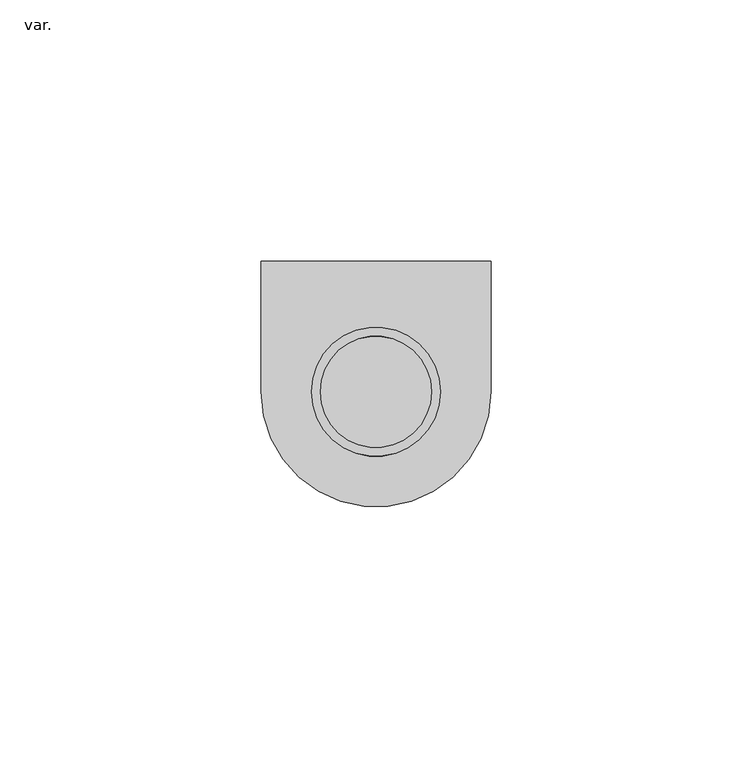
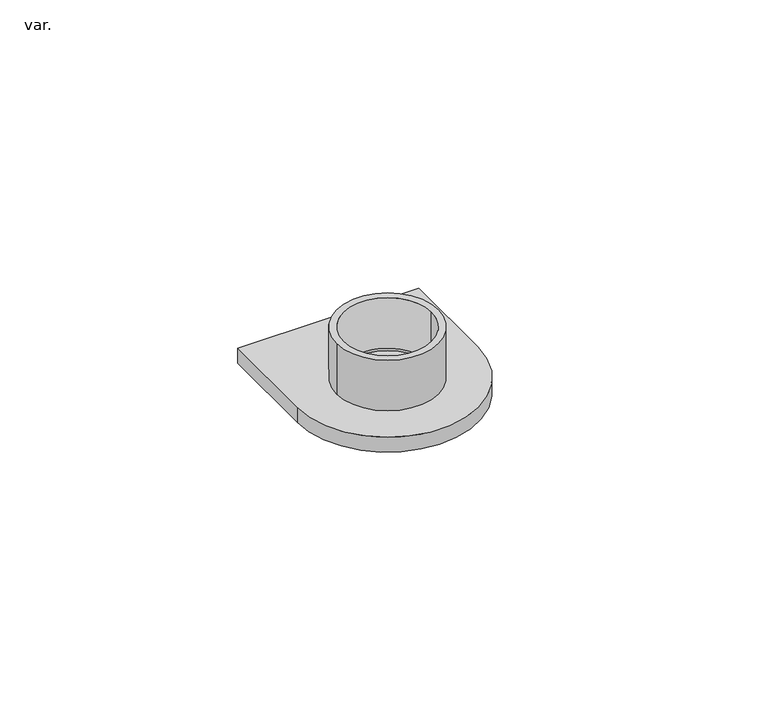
"""IFC4 building model written with IfcOpenShell, lengths in millimetres: pipe fitting geometry, AmancoWavin_ConexõesdoConduite_LinhaEletricaeZNãoUsarElectroAmancoAdaptador : var.."""

from ifc_helpers import new_model, si_unit, frame, origin, origin_with_axes, place, context, project, spatial, polyline, circle_curve, source, transform, mapped, element, save
from ifc_brep_helpers import plane_surface, cylinder_surface, revolved_surface, advanced_brep


def var_af95b0c3(model_context):
    return source(origin(), model_context, "Body", "AdvancedBrep", [
        advanced_brep(
        [(-22.0, 0.0, 3.85), (22.0, 0.0, 3.85), (22.0, 25.0, 3.85), (-22.0, 25.0, 3.85), (12.35, 0.0, 3.85), (-12.35, 0.0, 3.85), (-22.0, 0.0, 0.0), (-22.0, 25.0, 0.0), (22.0, 25.0, 0.0), (22.0, 0.0, 0.0), (-12.35, 0.0, 16.85), (12.35, 0.0, 16.85), (-10.65, 0.0, 16.85), (10.65, 0.0, 16.85), (10.65, 0.0, 3.85), (-10.65, 0.0, 3.85), (-10.65, 0.0, 3.25), (10.65, 0.0, 3.25)],
        [
            (0, 1, circle_curve(frame((0.0, 0.0, 3.85), z_axis=(0.0, 0.0, 1.0), x_axis=(1.0, 0.0, 0.0)), 22.0)),
            (1, 2),
            (2, 3),
            (3, 0),
            (4, 5, circle_curve(frame((0.0, 0.0, 3.85), z_axis=(0.0, 0.0, -1.0), x_axis=(1.0, 0.0, 0.0)), 12.35)),
            (5, 4, circle_curve(frame((0.0, 0.0, 3.85), z_axis=(0.0, 0.0, -1.0), x_axis=(1.0, 0.0, 0.0)), 12.35)),
            (6, 7),
            (7, 8),
            (8, 9),
            (9, 6, circle_curve(frame((0.0, 0.0, 0.0), z_axis=(0.0, 0.0, -1.0), x_axis=(1.0, 0.0, 0.0)), 22.0)),
            (3, 7),
            (6, 0),
            (2, 8),
            (1, 9),
            (10, 11, circle_curve(frame((0.0, 0.0, 16.85), z_axis=(0.0, 0.0, 1.0), x_axis=(1.0, 0.0, 0.0)), 12.35)),
            (11, 10, circle_curve(frame((0.0, 0.0, 16.85), z_axis=(0.0, 0.0, 1.0), x_axis=(1.0, 0.0, 0.0)), 12.35)),
            (12, 13, circle_curve(frame((0.0, 0.0, 16.85), z_axis=(0.0, 0.0, -1.0), x_axis=(1.0, 0.0, 0.0)), 10.65)),
            (13, 12, circle_curve(frame((0.0, 0.0, 16.85), z_axis=(0.0, 0.0, -1.0), x_axis=(1.0, 0.0, 0.0)), 10.65)),
            (11, 4),
            (5, 10),
            (13, 14),
            (14, 15, circle_curve(frame((0.0, 0.0, 3.85), z_axis=(0.0, 0.0, -1.0), x_axis=(1.0, 0.0, 0.0)), 10.65)),
            (15, 12),
            (15, 14, circle_curve(frame((0.0, 0.0, 3.85), z_axis=(0.0, 0.0, -1.0), x_axis=(1.0, 0.0, 0.0)), 10.65)),
            (16, 17, circle_curve(frame((0.0, 0.0, 3.25), z_axis=(0.0, 0.0, 1.0), x_axis=(1.0, 0.0, 0.0)), 10.65)),
            (17, 16, circle_curve(frame((0.0, 0.0, 3.25), z_axis=(0.0, 0.0, 1.0), x_axis=(1.0, 0.0, 0.0)), 10.65)),
            (17, 14),
            (15, 16),
        ],
        [
            plane_surface(frame((-22.0, 25.0, 3.85), z_axis=(0.0, 0.0, 1.0), x_axis=(0.0, 1.0, 0.0))),
            plane_surface(frame((-22.0, 25.0, 0.0), z_axis=(0.0, 0.0, -1.0), x_axis=(0.0, -1.0, 0.0))),
            plane_surface(frame((-22.0, 0.0, 3.85), z_axis=(-1.0, 0.0, 0.0), x_axis=(0.0, 0.0, -1.0))),
            plane_surface(frame((-22.0, 25.0, 3.85), z_axis=(0.0, 1.0, 0.0), x_axis=(0.0, 0.0, -1.0))),
            plane_surface(frame((22.0, 25.0, 3.85), z_axis=(1.0, 0.0, 0.0), x_axis=(0.0, 0.0, -1.0))),
            cylinder_surface(origin_with_axes(), 22.0),
            plane_surface(frame((12.35, 0.0, 16.85), z_axis=(0.0, 0.0, 1.0), x_axis=(0.0, -1.0, 0.0))),
            cylinder_surface(frame((0.0, 0.0, 3.25), z_axis=(0.0, 0.0, 1.0), x_axis=(1.0, 0.0, 0.0)), 12.35),
            revolved_surface(polyline([(10.65, 0.0, 3.85), (10.65, 0.0, 16.85)]), (0.0, 0.0, 0.0), (0.0, 0.0, -1.0)),
            plane_surface(frame((10.65, 0.0, 3.25), z_axis=(0.0, 0.0, 1.0), x_axis=(0.0, 1.0, 0.0))),
            revolved_surface(polyline([(10.65, 0.0, 3.85), (10.65, 0.0, 3.25)]), (0.0, 0.0, 3.25), (0.0, 0.0, 1.0)),
        ],
        [
            (0, [[1, 2, 3, 4], [5, 6]]),
            (1, [[7, 8, 9, 10]]),
            (2, [[11, -7, 12, -4]]),
            (3, [[13, -8, -11, -3]]),
            (4, [[14, -9, -13, -2]]),
            (5, [[-12, -10, -14, -1]]),
            (6, [[15, 16], [17, 18]]),
            (7, [[19, -6, 20, -16]]),
            (7, [[-20, -5, -19, -15]]),
            (8, [[21, 22, 23, -18]]),
            (8, [[-23, 24, -21, -17]]),
            (9, [[25, 26]]),
            (10, [[27, -24, 28, -26]]),
            (10, [[-28, -22, -27, -25]]),
        ],
    ),
    ])


if __name__ == "__main__":
    model = new_model("IFC4")
    model_context = context("Model", 3, world=origin())
    ifc_project = project(units=[si_unit("LENGTHUNIT", "METRE", prefix="MILLI")], contexts=[model_context])
    site = spatial("IfcSite", under=ifc_project)
    building = spatial("IfcBuilding", under=site)
    placement = place(None, origin())
    var_shape = var_af95b0c3(model_context)
    element("IfcPipeFitting", 1, ObjectType="AmancoWavin_ConexõesdoConduite_LinhaEletricaeZNãoUsarElectroAmancoAdaptador : var.", at=placement, inside=building, context=model_context, shape_type="MappedRepresentation", body=[
        mapped(var_shape, transform((0.0, 0.0, 0.0), x_axis=(1.0, 0.0, 0.0), y_axis=(0.0, 1.0, 0.0), z_axis=(0.0, 0.0, 1.0))),
    ])
    save(model, "model.ifc")
